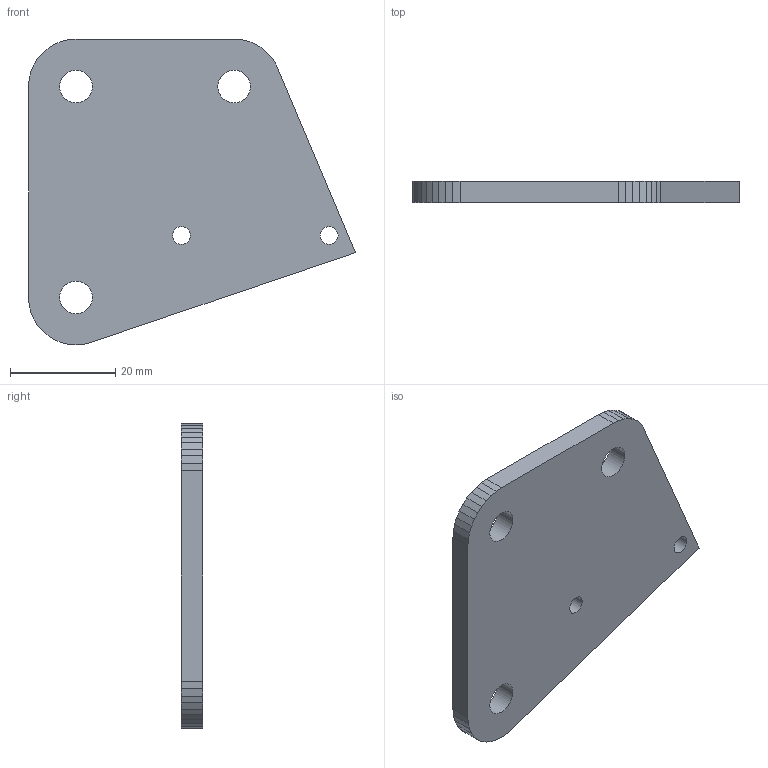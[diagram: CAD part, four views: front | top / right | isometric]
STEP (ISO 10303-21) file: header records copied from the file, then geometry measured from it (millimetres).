
FILE_DESCRIPTION(('Open CASCADE Model'),'2;1');
FILE_NAME('Open CASCADE Shape Model','2026-10-17T21:54:41',('Author'),( 'Open CASCADE'),'Open CASCADE STEP processor 7.9','Open CASCADE 7.9' ,'Unknown');
FILE_SCHEMA(('AUTOMOTIVE_DESIGN { 1 0 10303 214 1 1 1 1 }'));
Length unit declared in the file: millimetre
Products named in the file (1): Open CASCADE STEP translator 7.9 9
Bounding box: 62 x 4 x 58 mm (x, y, z)
Volume: 10597.7 mm3; surface area: 6428.5 mm2
Topology: 1 solids, 1 shells, 40 faces, 114 edges, 76 vertices
Faces by surface type: plane 35, cylinder 5
Full cylindrical faces by diameter (mm): 3.4 x2, 6.2 x3
Entity records: 2800 total; most frequent: CARTESIAN_POINT 459, DIRECTION 434, LINE 322, VECTOR 322, ORIENTED_EDGE 228, PCURVE 228, DEFINITIONAL_REPRESENTATION 228, EDGE_CURVE 114
